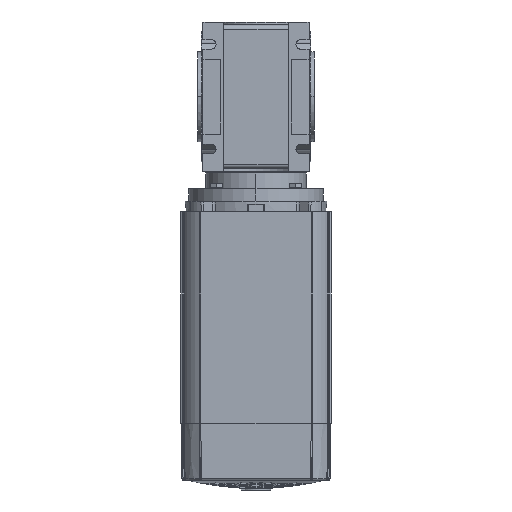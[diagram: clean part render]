
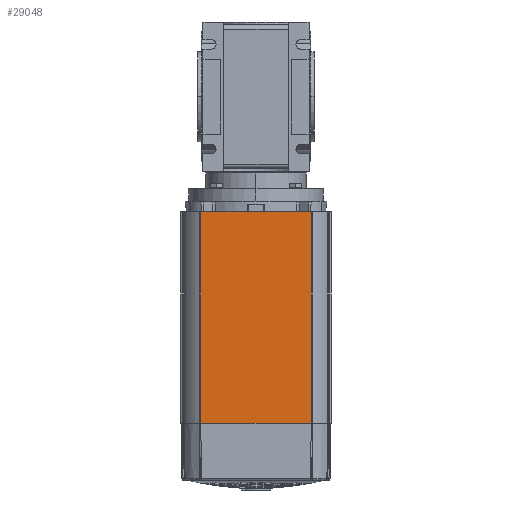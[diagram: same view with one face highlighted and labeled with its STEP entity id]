
A CAD part, front view. The second image highlights one B-rep face of the part: STEP entity #29048.
In plain terms, the highlighted planar face has unit normal (0, -1, 0).
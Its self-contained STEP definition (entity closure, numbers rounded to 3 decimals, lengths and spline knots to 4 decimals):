
#1925 = ORIENTED_EDGE ( 'NONE', *, *, #2006, .T. ) ;
#1964 = ORIENTED_EDGE ( 'NONE', *, *, #2002, .T. ) ;
#2002 = EDGE_CURVE ( 'NONE', #2003, #28044, #19656, .T. ) ;
#2003 = VERTEX_POINT ( 'NONE', #19651 ) ;
#2006 = EDGE_CURVE ( 'NONE', #2056, #2003, #19648, .T. ) ;
#2056 = VERTEX_POINT ( 'NONE', #19751 ) ;
#2102 = ORIENTED_EDGE ( 'NONE', *, *, #2241, .T. ) ;
#2241 = EDGE_CURVE ( 'NONE', #27894, #2056, #20137, .T. ) ;
#8832 = CARTESIAN_POINT ( 'NONE',  ( 1.4525, -1.977, 4.104 ) ) ;
#8863 = CARTESIAN_POINT ( 'NONE',  ( 1.4525, -1.977, -1.473 ) ) ;
#9095 = DIRECTION ( 'NONE',  ( 0., 0., 1. ) ) ;
#9096 = VECTOR ( 'NONE', #9095, 39.3701 ) ;
#9097 = CARTESIAN_POINT ( 'NONE',  ( 1.4525, -1.977, 4.184 ) ) ;
#9098 = LINE ( 'NONE', #9097, #9096 ) ;
#9370 = DIRECTION ( 'NONE',  ( 0., 0., 1. ) ) ;
#9371 = DIRECTION ( 'NONE',  ( 0., 1., 0. ) ) ;
#9372 = CARTESIAN_POINT ( 'NONE',  ( -1.4825, -1.977, 4.184 ) ) ;
#9373 = AXIS2_PLACEMENT_3D ( 'NONE', #9372, #9371, #9370 ) ;
#9374 = PLANE ( 'NONE',  #9373 ) ;
#9376 = FACE_OUTER_BOUND ( 'NONE', #28902, .T. ) ;
#19645 = DIRECTION ( 'NONE',  ( 0., 0., -1. ) ) ;
#19646 = VECTOR ( 'NONE', #19645, 39.3701 ) ;
#19647 = CARTESIAN_POINT ( 'NONE',  ( -1.4525, -1.977, 4.184 ) ) ;
#19648 = LINE ( 'NONE', #19647, #19646 ) ;
#19651 = CARTESIAN_POINT ( 'NONE',  ( -1.4525, -1.977, -1.473 ) ) ;
#19652 = DIRECTION ( 'NONE',  ( 1., 0., 0. ) ) ;
#19653 = VECTOR ( 'NONE', #19652, 39.3701 ) ;
#19655 = CARTESIAN_POINT ( 'NONE',  ( -1.4825, -1.977, -1.473 ) ) ;
#19656 = LINE ( 'NONE', #19655, #19653 ) ;
#19751 = CARTESIAN_POINT ( 'NONE',  ( -1.4525, -1.977, 4.104 ) ) ;
#20134 = DIRECTION ( 'NONE',  ( -1., 0., 0. ) ) ;
#20135 = VECTOR ( 'NONE', #20134, 39.3701 ) ;
#20136 = CARTESIAN_POINT ( 'NONE',  ( 1.977, -1.977, 4.104 ) ) ;
#20137 = LINE ( 'NONE', #20136, #20135 ) ;
#27894 = VERTEX_POINT ( 'NONE', #8832 ) ;
#28044 = VERTEX_POINT ( 'NONE', #8863 ) ;
#28902 = EDGE_LOOP ( 'NONE', ( #28949, #2102, #1925, #1964 ) ) ;
#28936 = EDGE_CURVE ( 'NONE', #28044, #27894, #9098, .T. ) ;
#28949 = ORIENTED_EDGE ( 'NONE', *, *, #28936, .T. ) ;
#29048 = ADVANCED_FACE ( 'NONE', ( #9376 ), #9374, .F. ) ;
